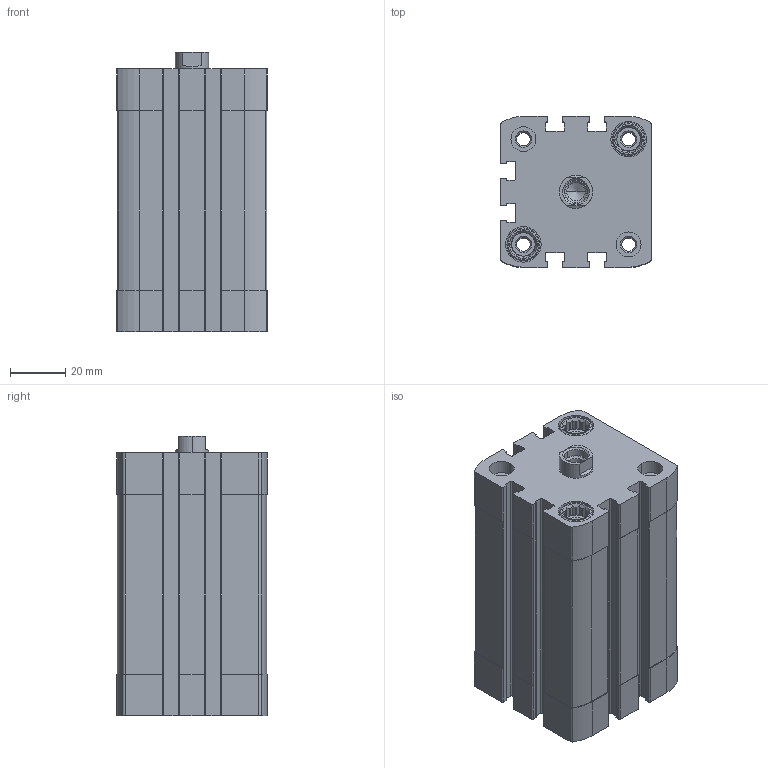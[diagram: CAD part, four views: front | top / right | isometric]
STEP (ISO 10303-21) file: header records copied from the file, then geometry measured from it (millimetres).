
FILE_DESCRIPTION (( 'STEP AP203' ), '1' );
FILE_NAME ('CCN40-50F.STEP', '2017-03-29T16:47:06', ( '' ), ( '' ), 'SwSTEP 2.0', 'SolidWorks 2016', '' );
FILE_SCHEMA (( 'CONFIG_CONTROL_DESIGN' ));
Length unit declared in the file: millimetre
Products named in the file (3): CCN-50---(Z); CCN-50_(KS); CCN40-50F
Assembly tree (2 placements, depth 2):
  CCN40-50F
    CCN-50---(Z)
    CCN-50_(KS)
Bounding box: 54.5 x 54.5 x 101.1 mm (x, y, z)
Volume: 186960.2 mm3; surface area: 59731.8 mm2
Topology: 2 solids, 2 shells, 479 faces, 1300 edges, 855 vertices
Faces by surface type: plane 267, cylinder 170, cone 42
Entity records: 15609 total; most frequent: CARTESIAN_POINT 2931, DIRECTION 2656, ORIENTED_EDGE 2596, EDGE_CURVE 1298, AXIS2_PLACEMENT_3D 972, VERTEX_POINT 855, VECTOR 712, LINE 712
